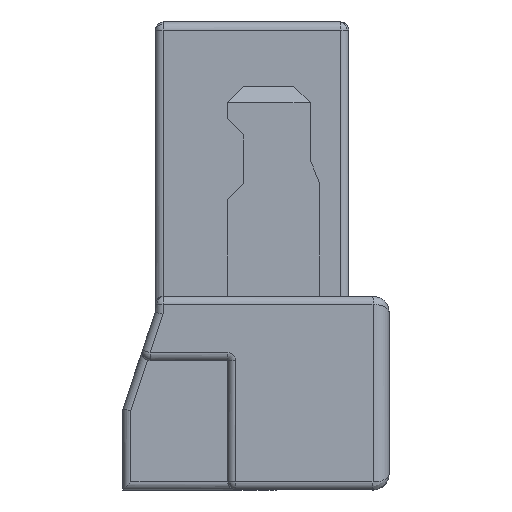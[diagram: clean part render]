
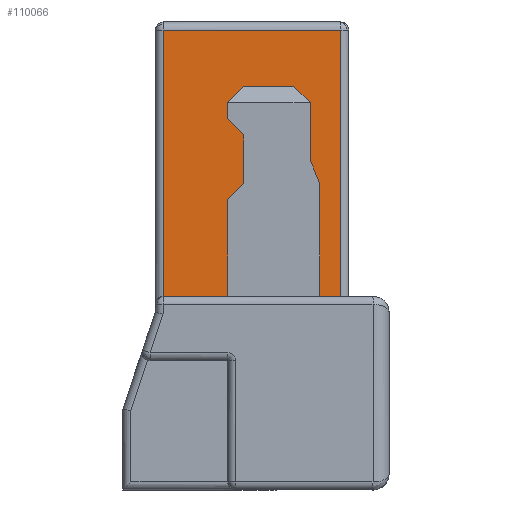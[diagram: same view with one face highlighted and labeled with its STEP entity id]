
A CAD part, left-side view. The second image highlights one B-rep face of the part: STEP entity #110066.
In plain terms, the highlighted planar face has unit normal (-1, 0, 0).
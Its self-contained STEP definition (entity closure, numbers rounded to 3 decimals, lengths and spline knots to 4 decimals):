
#40141=DIRECTION('',(0.,-1.,0.));
#40142=VECTOR('',#40141,1.1);
#40143=CARTESIAN_POINT('',(-17.69,1.4,2.85));
#40144=LINE('',#40143,#40142);
#40149=DIRECTION('',(0.,0.,-1.));
#40150=VECTOR('',#40149,0.354);
#40151=CARTESIAN_POINT('',(-17.69,0.49,2.4));
#40152=LINE('',#40151,#40150);
#40153=DIRECTION('',(0.,-0.707,-0.707));
#40154=VECTOR('',#40153,0.1414);
#40155=CARTESIAN_POINT('',(-17.69,0.59,2.5));
#40156=LINE('',#40155,#40154);
#40157=DIRECTION('',(0.,-0.707,0.707));
#40158=VECTOR('',#40157,0.1414);
#40159=CARTESIAN_POINT('',(-17.69,1.,2.4));
#40160=LINE('',#40159,#40158);
#40161=DIRECTION('',(0.,0.707,0.707));
#40162=VECTOR('',#40161,0.1414);
#40163=CARTESIAN_POINT('',(-17.69,0.9,2.2));
#40164=LINE('',#40163,#40162);
#40165=DIRECTION('',(0.,-0.707,0.707));
#40166=VECTOR('',#40165,0.1414);
#40167=CARTESIAN_POINT('',(-17.69,1.,1.8));
#40168=LINE('',#40167,#40166);
#40169=DIRECTION('',(0.,-1.,0.));
#40170=VECTOR('',#40169,0.4);
#40171=CARTESIAN_POINT('',(-17.69,1.4,1.2));
#40172=LINE('',#40171,#40170);
#40173=DIRECTION('',(0.,-1.,0.));
#40174=VECTOR('',#40173,0.13);
#40175=CARTESIAN_POINT('',(-17.69,0.43,1.2));
#40176=LINE('',#40175,#40174);
#40177=DIRECTION('',(0.,-0.38,-0.925));
#40178=VECTOR('',#40177,0.1578);
#40179=CARTESIAN_POINT('',(-17.69,0.49,2.046));
#40180=LINE('',#40179,#40178);
#40197=DIRECTION('',(0.,0.,1.));
#40198=VECTOR('',#40197,0.7);
#40199=CARTESIAN_POINT('',(-17.69,0.43,1.2));
#40200=LINE('',#40199,#40198);
#40237=DIRECTION('',(0.,0.,-1.));
#40238=VECTOR('',#40237,0.6);
#40239=CARTESIAN_POINT('',(-17.69,1.,1.8));
#40240=LINE('',#40239,#40238);
#40253=DIRECTION('',(0.,0.,-1.));
#40254=VECTOR('',#40253,0.3);
#40255=CARTESIAN_POINT('',(-17.69,0.9,2.2));
#40256=LINE('',#40255,#40254);
#40269=DIRECTION('',(0.,0.,-1.));
#40270=VECTOR('',#40269,0.1);
#40271=CARTESIAN_POINT('',(-17.69,1.,2.4));
#40272=LINE('',#40271,#40270);
#40285=DIRECTION('',(0.,1.,0.));
#40286=VECTOR('',#40285,0.31);
#40287=CARTESIAN_POINT('',(-17.69,0.59,2.5));
#40288=LINE('',#40287,#40286);
#40305=DIRECTION('',(0.,0.,1.));
#40306=VECTOR('',#40305,1.65);
#40307=CARTESIAN_POINT('',(-17.69,1.4,1.2));
#40308=LINE('',#40307,#40306);
#40613=DIRECTION('',(0.,0.,-1.));
#40614=VECTOR('',#40613,1.65);
#40615=CARTESIAN_POINT('',(-17.69,0.3,2.85));
#40616=LINE('',#40615,#40614);
#45755=CARTESIAN_POINT('',(-17.69,1.4,2.85));
#45756=VERTEX_POINT('',#45755);
#45757=CARTESIAN_POINT('',(-17.69,1.4,1.2));
#45758=VERTEX_POINT('',#45757);
#47115=CARTESIAN_POINT('',(-17.69,0.59,2.5));
#47116=CARTESIAN_POINT('',(-17.69,0.49,2.4));
#47117=VERTEX_POINT('',#47115);
#47118=VERTEX_POINT('',#47116);
#47119=CARTESIAN_POINT('',(-17.69,0.9,2.5));
#47120=VERTEX_POINT('',#47119);
#47121=CARTESIAN_POINT('',(-17.69,1.,2.4));
#47122=VERTEX_POINT('',#47121);
#47123=CARTESIAN_POINT('',(-17.69,1.,2.3));
#47124=VERTEX_POINT('',#47123);
#47125=CARTESIAN_POINT('',(-17.69,0.9,2.2));
#47126=VERTEX_POINT('',#47125);
#47127=CARTESIAN_POINT('',(-17.69,0.9,1.9));
#47128=VERTEX_POINT('',#47127);
#47129=CARTESIAN_POINT('',(-17.69,1.,1.8));
#47130=VERTEX_POINT('',#47129);
#47131=CARTESIAN_POINT('',(-17.69,1.,1.2));
#47132=VERTEX_POINT('',#47131);
#47133=CARTESIAN_POINT('',(-17.69,0.3,2.85));
#47134=VERTEX_POINT('',#47133);
#47135=CARTESIAN_POINT('',(-17.69,0.3,1.2));
#47136=VERTEX_POINT('',#47135);
#47137=CARTESIAN_POINT('',(-17.69,0.43,1.2));
#47138=VERTEX_POINT('',#47137);
#47139=CARTESIAN_POINT('',(-17.69,0.43,1.9));
#47140=VERTEX_POINT('',#47139);
#47141=CARTESIAN_POINT('',(-17.69,0.49,2.046));
#47142=VERTEX_POINT('',#47141);
#110030=CARTESIAN_POINT('',(-17.69,0.715,1.8));
#110031=DIRECTION('',(1.,0.,0.));
#110032=DIRECTION('',(0.,1.,0.));
#110033=AXIS2_PLACEMENT_3D('',#110030,#110031,#110032);
#110034=PLANE('',#110033);
#110036=ORIENTED_EDGE('',*,*,#110035,.F.);
#110038=ORIENTED_EDGE('',*,*,#110037,.F.);
#110040=ORIENTED_EDGE('',*,*,#110039,.T.);
#110042=ORIENTED_EDGE('',*,*,#110041,.F.);
#110044=ORIENTED_EDGE('',*,*,#110043,.T.);
#110046=ORIENTED_EDGE('',*,*,#110045,.F.);
#110048=ORIENTED_EDGE('',*,*,#110047,.T.);
#110050=ORIENTED_EDGE('',*,*,#110049,.F.);
#110052=ORIENTED_EDGE('',*,*,#110051,.T.);
#110053=ORIENTED_EDGE('',*,*,#58452,.F.);
#110055=ORIENTED_EDGE('',*,*,#110054,.T.);
#110056=ORIENTED_EDGE('',*,*,#110019,.T.);
#110058=ORIENTED_EDGE('',*,*,#110057,.T.);
#110059=ORIENTED_EDGE('',*,*,#58460,.F.);
#110061=ORIENTED_EDGE('',*,*,#110060,.T.);
#110063=ORIENTED_EDGE('',*,*,#110062,.F.);
#110064=EDGE_LOOP('',(#110036,#110038,#110040,#110042,#110044,#110046,#110048,
#110050,#110052,#110053,#110055,#110056,#110058,#110059,#110061,#110063));
#110065=FACE_OUTER_BOUND('',#110064,.F.);
#110066=ADVANCED_FACE('',(#110065),#110034,.F.);
#58452=EDGE_CURVE('',#45758,#47132,#40172,.T.);
#58460=EDGE_CURVE('',#47138,#47136,#40176,.T.);
#110019=EDGE_CURVE('',#45756,#47134,#40144,.T.);
#110035=EDGE_CURVE('',#47118,#47142,#40152,.T.);
#110037=EDGE_CURVE('',#47117,#47118,#40156,.T.);
#110039=EDGE_CURVE('',#47117,#47120,#40288,.T.);
#110041=EDGE_CURVE('',#47122,#47120,#40160,.T.);
#110043=EDGE_CURVE('',#47122,#47124,#40272,.T.);
#110045=EDGE_CURVE('',#47126,#47124,#40164,.T.);
#110047=EDGE_CURVE('',#47126,#47128,#40256,.T.);
#110049=EDGE_CURVE('',#47130,#47128,#40168,.T.);
#110051=EDGE_CURVE('',#47130,#47132,#40240,.T.);
#110054=EDGE_CURVE('',#45758,#45756,#40308,.T.);
#110057=EDGE_CURVE('',#47134,#47136,#40616,.T.);
#110060=EDGE_CURVE('',#47138,#47140,#40200,.T.);
#110062=EDGE_CURVE('',#47142,#47140,#40180,.T.);
